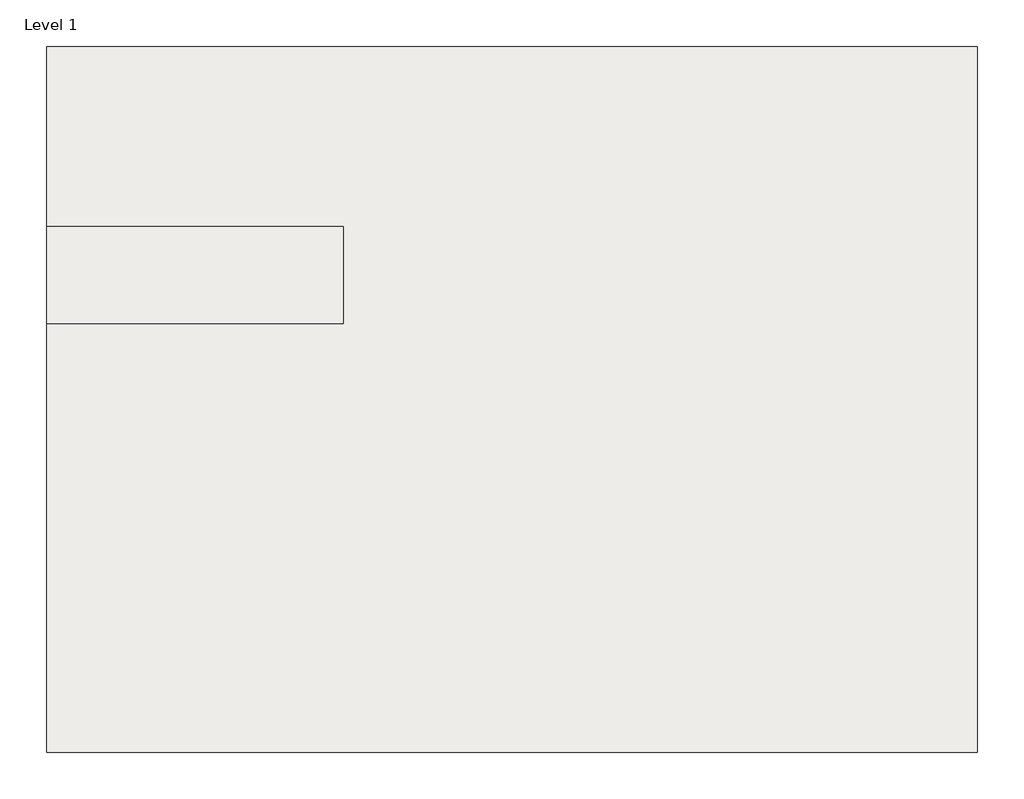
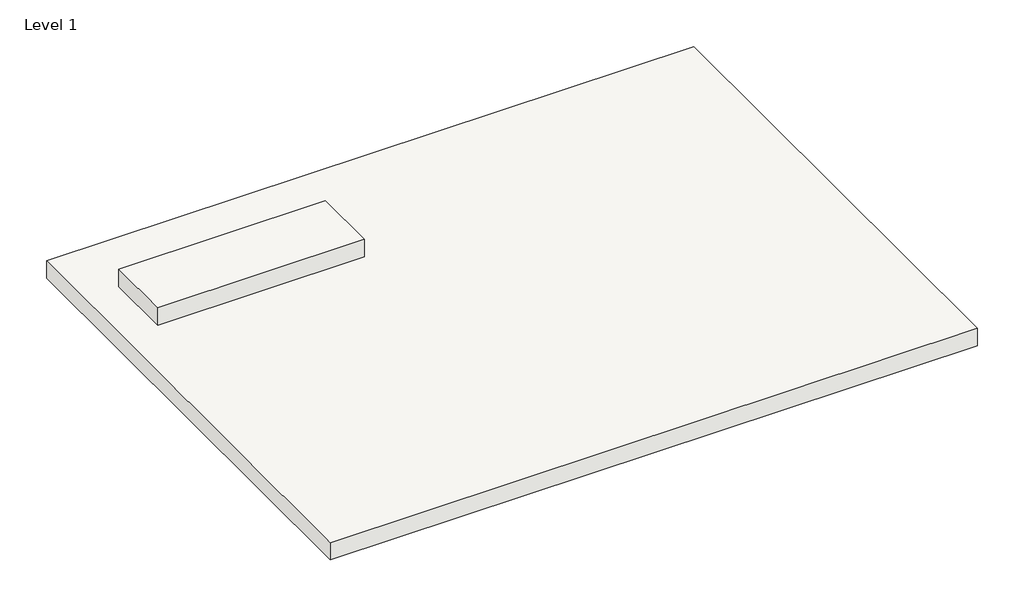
# One storey: 2 slabs.
"""IFC4 building model written with IfcOpenShell, lengths in millimetres."""

from ifc_helpers import new_model, si_unit, frame, origin, place, context, project, spatial, polyline, outline, extrude, element, save

model = new_model("IFC4")

# Units and contexts
model_context = context("Model", 3, world=origin())
ifc_project = project(units=[si_unit("LENGTHUNIT", "METRE", prefix="MILLI")], contexts=[model_context])

# Site, building, storey
site = spatial("IfcSite", under=ifc_project)
building = spatial("IfcBuilding", under=site)
storey = spatial("IfcBuildingStorey", under=building, Name="Level 1", Elevation=0.0)

# Slabs
placement = place(None, origin())
element("IfcSlab", 1, ObjectType="Generic -6\"", at=placement, inside=storey, context=model_context, shape_type="SweptSolid", body=[
    extrude(outline(polyline([(-10588.580561, -1902.1411222), (-10588.580561, -5980.4286222), (-15963.855561, -5980.4286222), (-15963.855561, -1902.1411222), (-10588.580561, -1902.1411222)])), frame((0.0, 0.0, -152.4), z_axis=(0.0, 0.0, 1.0), x_axis=(1.0, 0.0, 0.0)), (0.0, 0.0, 1.0), 152.4),
])
element("IfcSlab", 2, ObjectType="Generic -6\"", at=placement, inside=storey, context=model_context, shape_type="SweptSolid", body=[
    extrude(outline(polyline([(-14250.943061, -2943.5411222), (-14250.943061, -3502.3411222), (-15963.855561, -3502.3411222), (-15963.855561, -2943.5411222), (-14250.943061, -2943.5411222)])), frame((0.0, 0.0, 406.4), z_axis=(0.0, 0.0, 1.0), x_axis=(1.0, 0.0, 0.0)), (0.0, 0.0, 1.0), 152.4),
])

save(model, "model.ifc")
